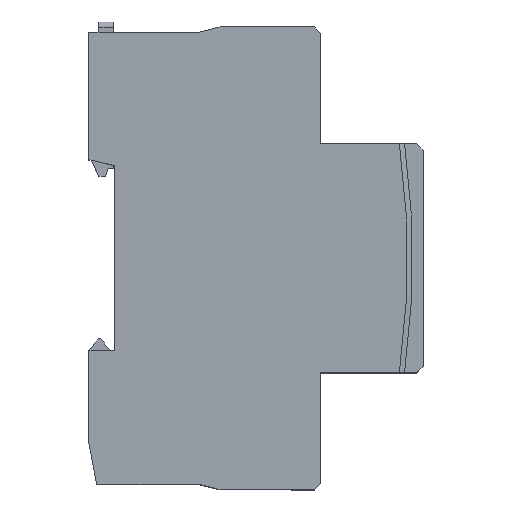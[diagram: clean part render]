
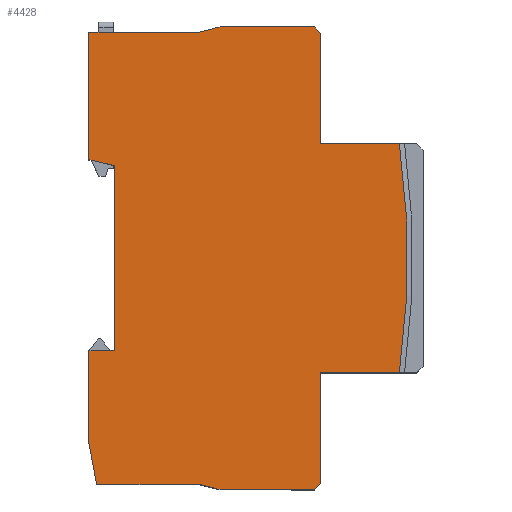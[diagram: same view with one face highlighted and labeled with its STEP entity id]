
A CAD part, top view. The second image highlights one B-rep face of the part: STEP entity #4428.
In plain terms, the highlighted planar face has unit normal (0, 0, 1).
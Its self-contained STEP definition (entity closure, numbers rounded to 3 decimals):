
#117 = CARTESIAN_POINT ( 'NONE',  ( -20., 0., 53. ) ) ;
#130 = EDGE_CURVE ( 'NONE', #6738, #1297, #7079, .T. ) ;
#187 = DIRECTION ( 'NONE',  ( 0.97, -0.243, 0. ) ) ;
#197 = ORIENTED_EDGE ( 'NONE', *, *, #732, .T. ) ;
#216 = ORIENTED_EDGE ( 'NONE', *, *, #2015, .T. ) ;
#333 = DIRECTION ( 'NONE',  ( 1., 0., 0. ) ) ;
#380 = VECTOR ( 'NONE', #4422, 1000. ) ;
#404 = DIRECTION ( 'NONE',  ( -1., 0., 0. ) ) ;
#413 = LINE ( 'NONE', #5874, #590 ) ;
#433 = VERTEX_POINT ( 'NONE', #7065 ) ;
#438 = DIRECTION ( 'NONE',  ( -0.97, -0.243, 0. ) ) ;
#543 = CARTESIAN_POINT ( 'NONE',  ( -20., 22.75, 53. ) ) ;
#590 = VECTOR ( 'NONE', #1457, 1000. ) ;
#609 = CARTESIAN_POINT ( 'NONE',  ( -43.5, 21.75, 53. ) ) ;
#612 = VERTEX_POINT ( 'NONE', #1032 ) ;
#630 = LINE ( 'NONE', #2824, #3420 ) ;
#648 = DIRECTION ( 'NONE',  ( 0., 1., 0. ) ) ;
#732 = EDGE_CURVE ( 'NONE', #2966, #3150, #630, .T. ) ;
#756 = CARTESIAN_POINT ( 'NONE',  ( -65., -40.25, 53. ) ) ;
#768 = CARTESIAN_POINT ( 'NONE',  ( -60., -40.25, 53. ) ) ;
#806 = DIRECTION ( 'NONE',  ( 0., -1., 0. ) ) ;
#814 = CARTESIAN_POINT ( 'NONE',  ( -65., -58.25, 53. ) ) ;
#817 = VERTEX_POINT ( 'NONE', #2434 ) ;
#847 = CARTESIAN_POINT ( 'NONE',  ( -20., -67.25, 53. ) ) ;
#868 = VERTEX_POINT ( 'NONE', #756 ) ;
#892 = VECTOR ( 'NONE', #438, 1000. ) ;
#964 = EDGE_CURVE ( 'NONE', #817, #4578, #3336, .T. ) ;
#1032 = CARTESIAN_POINT ( 'NONE',  ( -20., -66.05, 53. ) ) ;
#1079 = CARTESIAN_POINT ( 'NONE',  ( 0., 0., 53. ) ) ;
#1097 = VECTOR ( 'NONE', #2954, 1000. ) ;
#1161 = CARTESIAN_POINT ( 'NONE',  ( -60., -4.25, 53. ) ) ;
#1297 = VERTEX_POINT ( 'NONE', #609 ) ;
#1313 = CARTESIAN_POINT ( 'NONE',  ( -4.61, 0., 53. ) ) ;
#1315 = ORIENTED_EDGE ( 'NONE', *, *, #2549, .T. ) ;
#1342 = EDGE_CURVE ( 'NONE', #4752, #4587, #6972, .T. ) ;
#1457 = DIRECTION ( 'NONE',  ( 1., 0., 0. ) ) ;
#1647 = CARTESIAN_POINT ( 'NONE',  ( -21.2, 22.75, 53. ) ) ;
#1778 = CARTESIAN_POINT ( 'NONE',  ( -39.5, -67.25, 53. ) ) ;
#1818 = CARTESIAN_POINT ( 'NONE',  ( -39.5, 22.75, 53. ) ) ;
#1837 = LINE ( 'NONE', #543, #6609 ) ;
#1891 = LINE ( 'NONE', #117, #2773 ) ;
#1898 = VERTEX_POINT ( 'NONE', #1778 ) ;
#1903 = CARTESIAN_POINT ( 'NONE',  ( -4.61, -44.5, 53. ) ) ;
#1943 = AXIS2_PLACEMENT_3D ( 'NONE', #7145, #5444, #404 ) ;
#1978 = ORIENTED_EDGE ( 'NONE', *, *, #6242, .T. ) ;
#1988 = LINE ( 'NONE', #2650, #5291 ) ;
#1993 = VERTEX_POINT ( 'NONE', #814 ) ;
#2015 = EDGE_CURVE ( 'NONE', #1297, #2966, #4096, .T. ) ;
#2016 = VECTOR ( 'NONE', #4641, 1000. ) ;
#2154 = LINE ( 'NONE', #6729, #4231 ) ;
#2210 = DIRECTION ( 'NONE',  ( -0.707, 0.707, 0. ) ) ;
#2215 = VECTOR ( 'NONE', #5605, 1000. ) ;
#2266 = DIRECTION ( 'NONE',  ( -1., 0., 0. ) ) ;
#2313 = LINE ( 'NONE', #1161, #380 ) ;
#2348 = ORIENTED_EDGE ( 'NONE', *, *, #6148, .T. ) ;
#2382 = VECTOR ( 'NONE', #806, 1000. ) ;
#2408 = CIRCLE ( 'NONE', #1943, 154.507 ) ;
#2434 = CARTESIAN_POINT ( 'NONE',  ( -60., -4.25, 53. ) ) ;
#2524 = EDGE_LOOP ( 'NONE', ( #1315, #6835, #2348, #6654, #1978, #2777, #6218, #216, #197, #7027, #3719, #6605, #4198, #6238, #3594, #6647, #3245, #5697, #4473 ) ) ;
#2545 = CARTESIAN_POINT ( 'NONE',  ( -21.2, -67.25, 53. ) ) ;
#2549 = EDGE_CURVE ( 'NONE', #3567, #4577, #413, .T. ) ;
#2650 = CARTESIAN_POINT ( 'NONE',  ( -20., -66.05, 53. ) ) ;
#2680 = LINE ( 'NONE', #847, #6672 ) ;
#2750 = VECTOR ( 'NONE', #187, 1000. ) ;
#2760 = EDGE_CURVE ( 'NONE', #3583, #612, #1988, .T. ) ;
#2773 = VECTOR ( 'NONE', #6803, 1000. ) ;
#2776 = PLANE ( 'NONE',  #3652 ) ;
#2777 = ORIENTED_EDGE ( 'NONE', *, *, #7194, .T. ) ;
#2824 = CARTESIAN_POINT ( 'NONE',  ( -65., 21.75, 53. ) ) ;
#2910 = VECTOR ( 'NONE', #2210, 1000. ) ;
#2954 = DIRECTION ( 'NONE',  ( -1., 0., 0. ) ) ;
#2966 = VERTEX_POINT ( 'NONE', #4654 ) ;
#3125 = CARTESIAN_POINT ( 'NONE',  ( -20., -44.5, 53. ) ) ;
#3150 = VERTEX_POINT ( 'NONE', #4311 ) ;
#3227 = DIRECTION ( 'NONE',  ( 0.707, 0.707, 0. ) ) ;
#3245 = ORIENTED_EDGE ( 'NONE', *, *, #3526, .T. ) ;
#3249 = CARTESIAN_POINT ( 'NONE',  ( -20., 21.55, 53. ) ) ;
#3336 = LINE ( 'NONE', #4149, #2382 ) ;
#3420 = VECTOR ( 'NONE', #5610, 1000. ) ;
#3492 = VECTOR ( 'NONE', #6181, 1000. ) ;
#3505 = EDGE_CURVE ( 'NONE', #4407, #6049, #1891, .T. ) ;
#3526 = EDGE_CURVE ( 'NONE', #1898, #3583, #2680, .T. ) ;
#3567 = VERTEX_POINT ( 'NONE', #3125 ) ;
#3583 = VERTEX_POINT ( 'NONE', #2545 ) ;
#3594 = ORIENTED_EDGE ( 'NONE', *, *, #1342, .T. ) ;
#3652 = AXIS2_PLACEMENT_3D ( 'NONE', #1079, #3934, #6620 ) ;
#3719 = ORIENTED_EDGE ( 'NONE', *, *, #964, .T. ) ;
#3878 = CARTESIAN_POINT ( 'NONE',  ( -65., -66.25, 53. ) ) ;
#3892 = EDGE_CURVE ( 'NONE', #612, #3567, #2154, .T. ) ;
#3934 = DIRECTION ( 'NONE',  ( 0., 0., -1. ) ) ;
#4028 = VECTOR ( 'NONE', #7210, 1000. ) ;
#4096 = LINE ( 'NONE', #5832, #2016 ) ;
#4149 = CARTESIAN_POINT ( 'NONE',  ( -60., -4.25, 53. ) ) ;
#4198 = ORIENTED_EDGE ( 'NONE', *, *, #6223, .T. ) ;
#4217 = LINE ( 'NONE', #6873, #2750 ) ;
#4231 = VECTOR ( 'NONE', #648, 1000. ) ;
#4311 = CARTESIAN_POINT ( 'NONE',  ( -65., -3.05, 53. ) ) ;
#4407 = VERTEX_POINT ( 'NONE', #5584 ) ;
#4422 = DIRECTION ( 'NONE',  ( 0.972, -0.233, 0. ) ) ;
#4428 = ADVANCED_FACE ( 'NONE', ( #5962 ), #2776, .F. ) ;
#4436 = CARTESIAN_POINT ( 'NONE',  ( -63.5, -66.25, 53. ) ) ;
#4473 = ORIENTED_EDGE ( 'NONE', *, *, #3892, .T. ) ;
#4519 = EDGE_CURVE ( 'NONE', #4578, #868, #4844, .T. ) ;
#4577 = VERTEX_POINT ( 'NONE', #1903 ) ;
#4578 = VERTEX_POINT ( 'NONE', #768 ) ;
#4587 = VERTEX_POINT ( 'NONE', #5252 ) ;
#4641 = DIRECTION ( 'NONE',  ( -1., 0., 0. ) ) ;
#4654 = CARTESIAN_POINT ( 'NONE',  ( -65., 21.75, 53. ) ) ;
#4752 = VERTEX_POINT ( 'NONE', #6382 ) ;
#4844 = LINE ( 'NONE', #5762, #1097 ) ;
#4848 = EDGE_CURVE ( 'NONE', #4577, #5151, #2408, .T. ) ;
#5065 = CARTESIAN_POINT ( 'NONE',  ( -65., -66.25, 53. ) ) ;
#5151 = VERTEX_POINT ( 'NONE', #1313 ) ;
#5203 = EDGE_CURVE ( 'NONE', #4587, #1898, #4217, .T. ) ;
#5252 = CARTESIAN_POINT ( 'NONE',  ( -43.5, -66.25, 53. ) ) ;
#5291 = VECTOR ( 'NONE', #3227, 1000. ) ;
#5444 = DIRECTION ( 'NONE',  ( 0., 0., 1. ) ) ;
#5510 = LINE ( 'NONE', #5556, #4028 ) ;
#5556 = CARTESIAN_POINT ( 'NONE',  ( 0., 0., 53. ) ) ;
#5584 = CARTESIAN_POINT ( 'NONE',  ( -20., 0., 53. ) ) ;
#5605 = DIRECTION ( 'NONE',  ( 0., -1., 0. ) ) ;
#5610 = DIRECTION ( 'NONE',  ( 0., -1., 0. ) ) ;
#5625 = EDGE_CURVE ( 'NONE', #3150, #817, #2313, .T. ) ;
#5697 = ORIENTED_EDGE ( 'NONE', *, *, #2760, .T. ) ;
#5762 = CARTESIAN_POINT ( 'NONE',  ( -65., -40.25, 53. ) ) ;
#5832 = CARTESIAN_POINT ( 'NONE',  ( -65., 21.75, 53. ) ) ;
#5858 = LINE ( 'NONE', #1647, #2910 ) ;
#5874 = CARTESIAN_POINT ( 'NONE',  ( 0., -44.5, 53. ) ) ;
#5962 = FACE_OUTER_BOUND ( 'NONE', #2524, .T. ) ;
#5995 = CARTESIAN_POINT ( 'NONE',  ( -7.676, 30.706, 53. ) ) ;
#6036 = LINE ( 'NONE', #3878, #2215 ) ;
#6049 = VERTEX_POINT ( 'NONE', #3249 ) ;
#6133 = EDGE_CURVE ( 'NONE', #1993, #4752, #6982, .T. ) ;
#6140 = DIRECTION ( 'NONE',  ( 0.184, -0.983, 0. ) ) ;
#6148 = EDGE_CURVE ( 'NONE', #5151, #4407, #5510, .T. ) ;
#6181 = DIRECTION ( 'NONE',  ( 1., 0., 0. ) ) ;
#6218 = ORIENTED_EDGE ( 'NONE', *, *, #130, .T. ) ;
#6223 = EDGE_CURVE ( 'NONE', #868, #1993, #6036, .T. ) ;
#6238 = ORIENTED_EDGE ( 'NONE', *, *, #6133, .T. ) ;
#6242 = EDGE_CURVE ( 'NONE', #6049, #433, #5858, .T. ) ;
#6382 = CARTESIAN_POINT ( 'NONE',  ( -63.5, -66.25, 53. ) ) ;
#6605 = ORIENTED_EDGE ( 'NONE', *, *, #4519, .T. ) ;
#6609 = VECTOR ( 'NONE', #2266, 1000. ) ;
#6620 = DIRECTION ( 'NONE',  ( -1., 0., 0. ) ) ;
#6647 = ORIENTED_EDGE ( 'NONE', *, *, #5203, .T. ) ;
#6654 = ORIENTED_EDGE ( 'NONE', *, *, #3505, .T. ) ;
#6672 = VECTOR ( 'NONE', #333, 1000. ) ;
#6727 = VECTOR ( 'NONE', #6140, 1000. ) ;
#6729 = CARTESIAN_POINT ( 'NONE',  ( -20., -44.5, 53. ) ) ;
#6738 = VERTEX_POINT ( 'NONE', #1818 ) ;
#6803 = DIRECTION ( 'NONE',  ( 0., 1., 0. ) ) ;
#6835 = ORIENTED_EDGE ( 'NONE', *, *, #4848, .T. ) ;
#6873 = CARTESIAN_POINT ( 'NONE',  ( -18.147, -72.588, 53. ) ) ;
#6972 = LINE ( 'NONE', #5065, #3492 ) ;
#6982 = LINE ( 'NONE', #4436, #6727 ) ;
#7027 = ORIENTED_EDGE ( 'NONE', *, *, #5625, .T. ) ;
#7065 = CARTESIAN_POINT ( 'NONE',  ( -21.2, 22.75, 53. ) ) ;
#7079 = LINE ( 'NONE', #5995, #892 ) ;
#7145 = CARTESIAN_POINT ( 'NONE',  ( -157.507, -22.25, 53. ) ) ;
#7194 = EDGE_CURVE ( 'NONE', #433, #6738, #1837, .T. ) ;
#7210 = DIRECTION ( 'NONE',  ( -1., 0., 0. ) ) ;
